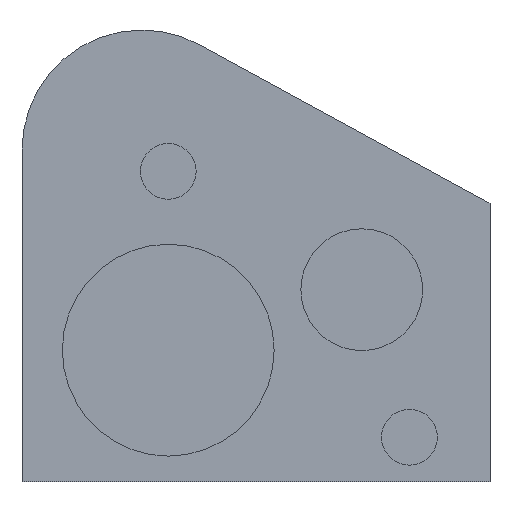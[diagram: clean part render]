
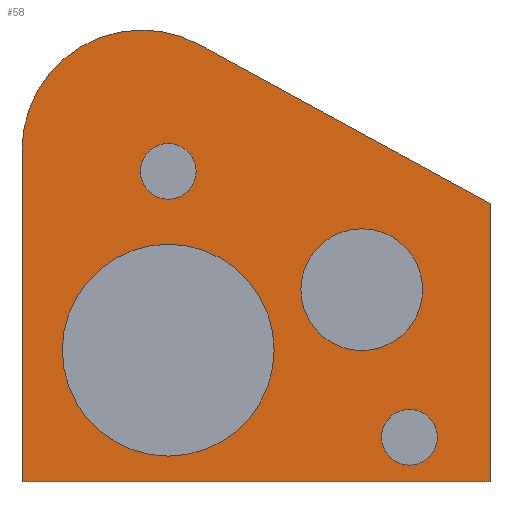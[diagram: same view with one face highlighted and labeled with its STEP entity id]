
A CAD part, top view. The second image highlights one B-rep face of the part: STEP entity #58.
In plain terms, the highlighted planar face has unit normal (0, 0, 1).
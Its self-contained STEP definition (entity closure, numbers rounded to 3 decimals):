
#58=ADVANCED_FACE('',(#193,#195,#197,#199,#201),#203,.T.);
#193=FACE_BOUND('',#194,.T.);
#194=EDGE_LOOP('',(#314,#315,#316,#317,#318));
#195=FACE_BOUND('',#196,.T.);
#196=EDGE_LOOP('',(#319));
#197=FACE_BOUND('',#198,.T.);
#198=EDGE_LOOP('',(#320));
#199=FACE_BOUND('',#200,.T.);
#200=EDGE_LOOP('',(#321));
#201=FACE_BOUND('',#202,.T.);
#202=EDGE_LOOP('',(#322));
#203=PLANE('',#204);
#204=AXIS2_PLACEMENT_3D('',#205,#206,#207);
#205=CARTESIAN_POINT('',(0.,0.,0.8));
#206=DIRECTION('',(0.,0.,1.));
#207=DIRECTION('',(1.,0.,0.));
#314=ORIENTED_EDGE('',*,*,#360,.T.);
#315=ORIENTED_EDGE('',*,*,#361,.T.);
#316=ORIENTED_EDGE('',*,*,#362,.T.);
#317=ORIENTED_EDGE('',*,*,#363,.T.);
#318=ORIENTED_EDGE('',*,*,#364,.T.);
#319=ORIENTED_EDGE('',*,*,#365,.T.);
#320=ORIENTED_EDGE('',*,*,#366,.T.);
#321=ORIENTED_EDGE('',*,*,#367,.T.);
#322=ORIENTED_EDGE('',*,*,#368,.T.);
#360=EDGE_CURVE('',#383,#384,#385,.F.);
#361=EDGE_CURVE('',#384,#386,#387,.T.);
#362=EDGE_CURVE('',#386,#388,#389,.T.);
#363=EDGE_CURVE('',#388,#390,#391,.T.);
#364=EDGE_CURVE('',#390,#383,#392,.F.);
#365=EDGE_CURVE('',#393,#393,#394,.F.);
#366=EDGE_CURVE('',#395,#395,#396,.F.);
#367=EDGE_CURVE('',#397,#397,#398,.F.);
#368=EDGE_CURVE('',#399,#399,#400,.F.);
#383=VERTEX_POINT('',#424);
#384=VERTEX_POINT('',#425);
#385=LINE('',#426,#427);
#386=VERTEX_POINT('',#429);
#387=LINE('',#430,#431);
#388=VERTEX_POINT('',#433);
#389=CIRCLE('',#434,40.);
#390=VERTEX_POINT('',#438);
#391=LINE('',#439,#440);
#392=LINE('',#442,#443);
#393=VERTEX_POINT('',#445);
#394=CIRCLE('',#446,35.3);
#395=VERTEX_POINT('',#450);
#396=CIRCLE('',#451,20.3);
#397=VERTEX_POINT('',#455);
#398=CIRCLE('',#456,9.3);
#399=VERTEX_POINT('',#460);
#400=CIRCLE('',#461,9.3);
#424=CARTESIAN_POINT('',(-139.023,2.,0.8));
#425=CARTESIAN_POINT('',(-139.023,94.883,0.8));
#426=CARTESIAN_POINT('',(-139.023,94.883,0.8));
#427=VECTOR('',#428,1.);
#428=DIRECTION('',(0.,-1.,0.));
#429=CARTESIAN_POINT('',(-235.836,147.727,0.8));
#430=CARTESIAN_POINT('',(-139.023,94.883,0.8));
#431=VECTOR('',#432,1.);
#432=DIRECTION('',(-0.878,0.479,0.));
#433=CARTESIAN_POINT('',(-295.,112.617,0.8));
#434=AXIS2_PLACEMENT_3D('',#435,#436,#437);
#435=CARTESIAN_POINT('',(-255.,112.617,0.8));
#436=DIRECTION('',(0.,0.,1.));
#437=DIRECTION('',(0.479,0.878,0.));
#438=CARTESIAN_POINT('',(-295.,2.,0.8));
#439=CARTESIAN_POINT('',(-295.,112.617,0.8));
#440=VECTOR('',#441,1.);
#441=DIRECTION('',(0.,-1.,0.));
#442=CARTESIAN_POINT('',(-139.023,2.,0.8));
#443=VECTOR('',#444,1.);
#444=DIRECTION('',(-1.,0.,0.));
#445=CARTESIAN_POINT('',(-210.959,45.916,0.8));
#446=AXIS2_PLACEMENT_3D('',#447,#448,#449);
#447=CARTESIAN_POINT('',(-246.259,45.916,0.8));
#448=DIRECTION('',(0.,0.,1.));
#449=DIRECTION('',(1.,0.,0.));
#450=CARTESIAN_POINT('',(-161.463,66.073,0.8));
#451=AXIS2_PLACEMENT_3D('',#452,#453,#454);
#452=CARTESIAN_POINT('',(-181.763,66.073,0.8));
#453=DIRECTION('',(0.,0.,1.));
#454=DIRECTION('',(1.,0.,0.));
#455=CARTESIAN_POINT('',(-156.566,16.903,0.8));
#456=AXIS2_PLACEMENT_3D('',#457,#458,#459);
#457=CARTESIAN_POINT('',(-165.866,16.903,0.8));
#458=DIRECTION('',(0.,0.,1.));
#459=DIRECTION('',(1.,0.,0.));
#460=CARTESIAN_POINT('',(-236.959,105.524,0.8));
#461=AXIS2_PLACEMENT_3D('',#462,#463,#464);
#462=CARTESIAN_POINT('',(-246.259,105.524,0.8));
#463=DIRECTION('',(0.,0.,1.));
#464=DIRECTION('',(1.,0.,0.));
